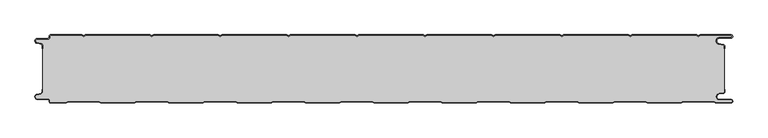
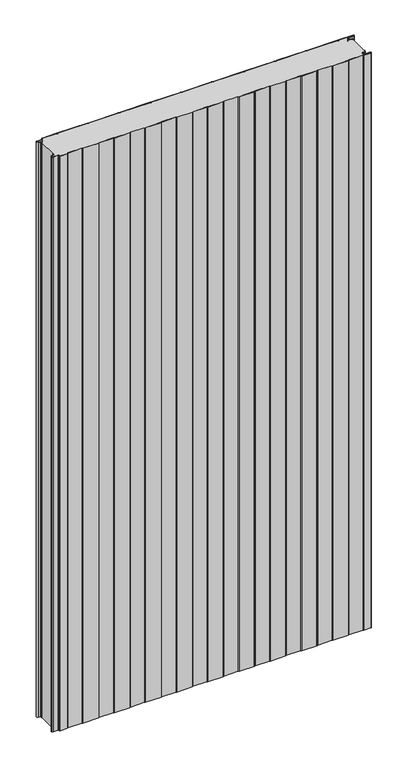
"""IFC4 building model written with IfcOpenShell, lengths in millimetres: plate geometry, PMH_Curtain-PaneL-Standard : ACH_PMH_Stone-wool-Panel_100M."""

from ifc_helpers import new_model, si_unit, point, frame_2d, origin, origin_with_axes, place, context, project, spatial, polyline, circle_curve, trimmed, segment, composite_curve, outline, extrude, source, transform, mapped, element, save


def plate_b975286f(model_context):
    return source(origin(), model_context, "Body", "SweptSolid", [
        extrude(outline(composite_curve([segment(trimmed(circle_curve(frame_2d((-502.0, -15.878557)), 2.0), [point((-500.0, -15.878557))], [point((-501.5500978, -13.9298169))], True, "CARTESIAN"), True, "CONTINUOUS"), segment(polyline([(-501.5500978, -13.9298169), (-507.7098239, -12.507732)]), True, "CONTINUOUS"), segment(trimmed(circle_curve(frame_2d((-506.9, -9.0)), 3.6), [point((-507.7098239, -12.507732))], [point((-506.9, -5.4))], False, "CARTESIAN"), True, "CONTINUOUS"), segment(polyline([(-506.9, -5.4), (-491.4, -5.4)]), True, "CONTINUOUS"), segment(trimmed(circle_curve(frame_2d((-491.4, -3.4)), 2.0), [point((-491.4, -5.4))], [point((-489.4, -3.4))], True, "CARTESIAN"), True, "CONTINUOUS"), segment(polyline([(-489.4, -3.4), (-489.4, -2.0)]), True, "CONTINUOUS"), segment(trimmed(circle_curve(frame_2d((-487.4, -2.0)), 2.0), [point((-489.4, -2.0))], [point((-487.4, 0.0))], False, "CARTESIAN"), True, "CONTINUOUS"), segment(polyline([(-487.4, 0.0), (-442.0999995, 0.0), (-439.4, -1.5588455), (-436.7000005, 0.0), (-342.0999995, 0.0), (-339.4, -1.5588455), (-336.7000005, 0.0), (-242.0999995, 0.0), (-239.4, -1.5588455), (-236.7000005, 0.0), (-142.0999995, 0.0), (-139.4, -1.5588455), (-136.7000005, 0.0), (-42.0999995, 0.0), (-39.4, -1.5588455), (-36.7000005, 0.0), (57.9000005, 0.0), (60.6, -1.5588455), (63.2999995, 0.0), (157.9000005, 0.0), (160.6, -1.5588455), (163.2999995, 0.0), (257.9000005, 0.0), (260.6, -1.5588455), (263.2999995, 0.0), (357.9000005, 0.0), (360.6, -1.5588455), (363.2999995, 0.0), (457.9000005, 0.0), (460.6, -1.5588455), (463.2999995, 0.0), (508.1, 0.0)]), True, "CONTINUOUS"), segment(trimmed(circle_curve(frame_2d((508.1, -2.5)), 2.5), [point((508.1, 0.0))], [point((508.1, -5.0))], False, "CARTESIAN"), True, "CONTINUOUS"), segment(polyline([(508.1, -5.0), (491.1, -5.0)]), True, "CONTINUOUS"), segment(trimmed(circle_curve(frame_2d((491.1, -9.0)), 4.0), [point((491.1, -5.0))], [point((490.405407, -12.939231))], True, "CARTESIAN"), True, "CONTINUOUS"), segment(polyline([(490.405407, -12.939231), (496.8514855, -14.0758491)]), True, "CONTINUOUS"), segment(trimmed(circle_curve(frame_2d((496.4, -16.6363492)), 2.6), [point((496.8514855, -14.0758491))], [point((499.0, -16.6363492))], False, "CARTESIAN"), True, "CONTINUOUS"), segment(polyline([(499.0, -16.6363492), (499.0, -20.0), (498.2, -20.0), (498.2, -16.6363492)]), True, "CONTINUOUS"), segment(trimmed(circle_curve(frame_2d((496.4, -16.6363492)), 1.8), [point((498.2, -16.6363492))], [point((496.7125669, -14.8636953))], True, "CARTESIAN"), True, "CONTINUOUS"), segment(polyline([(496.7125669, -14.8636953), (490.2664884, -13.7270772)]), True, "CONTINUOUS"), segment(trimmed(circle_curve(frame_2d((491.1, -9.0)), 4.8), [point((490.2664884, -13.7270772))], [point((491.1, -4.2))], False, "CARTESIAN"), True, "CONTINUOUS"), segment(polyline([(491.1, -4.2), (508.1, -4.2)]), True, "CONTINUOUS"), segment(trimmed(circle_curve(frame_2d((508.1, -2.5)), 1.7), [point((508.1, -4.2))], [point((508.1, -0.8))], True, "CARTESIAN"), True, "CONTINUOUS"), segment(polyline([(508.1, -0.8), (463.5143588, -0.8), (460.6, -2.482606), (457.6856412, -0.8), (363.5143588, -0.8), (360.6, -2.482606), (357.6856412, -0.8), (263.5143588, -0.8), (260.6, -2.482606), (257.6856412, -0.8), (163.5143588, -0.8), (160.6, -2.482606), (157.6856412, -0.8), (63.5143588, -0.8), (60.6, -2.482606), (57.6856412, -0.8), (-36.4856412, -0.8), (-39.4, -2.482606), (-42.3143588, -0.8), (-136.4856412, -0.8), (-139.4, -2.482606), (-142.3143588, -0.8), (-236.4856412, -0.8), (-239.4, -2.482606), (-242.3143588, -0.8), (-336.4856412, -0.8), (-339.4, -2.482606), (-342.3143588, -0.8), (-436.4856412, -0.8), (-439.4, -2.482606), (-442.3143588, -0.8), (-487.4, -0.8)]), True, "CONTINUOUS"), segment(trimmed(circle_curve(frame_2d((-487.4, -2.0)), 1.2), [point((-487.4, -0.8))], [point((-488.6, -2.0))], True, "CARTESIAN"), True, "CONTINUOUS"), segment(polyline([(-488.6, -2.0), (-488.6, -3.4)]), True, "CONTINUOUS"), segment(trimmed(circle_curve(frame_2d((-491.4, -3.4)), 2.8), [point((-488.6, -3.4))], [point((-491.4, -6.2))], False, "CARTESIAN"), True, "CONTINUOUS"), segment(polyline([(-491.4, -6.2), (-506.9, -6.2)]), True, "CONTINUOUS"), segment(trimmed(circle_curve(frame_2d((-506.9, -9.0)), 2.8), [point((-506.9, -6.2))], [point((-507.529863, -11.7282362))], True, "CARTESIAN"), True, "CONTINUOUS"), segment(polyline([(-507.529863, -11.7282362), (-501.370137, -13.150321)]), True, "CONTINUOUS"), segment(trimmed(circle_curve(frame_2d((-502.0, -15.878557)), 2.8), [point((-501.370137, -13.150321))], [point((-499.2, -15.878557))], False, "CARTESIAN"), True, "CONTINUOUS"), segment(polyline([(-499.2, -15.878557), (-499.2, -20.0), (-500.0, -20.0), (-500.0, -15.878557)]), True, "CONTINUOUS")], self_intersect=False)), origin_with_axes(), (0.0, 0.0, 1.0), 1945.7507136),
        extrude(outline(composite_curve([segment(polyline([(-499.2, -84.121443), (-499.2, -15.8785573)]), True, "CONTINUOUS"), segment(trimmed(circle_curve(frame_2d((-502.0, -15.8785573)), 2.8), [point((-499.2, -15.8785573))], [point((-501.370137, -13.1503212))], True, "CARTESIAN"), True, "CONTINUOUS"), segment(polyline([(-501.370137, -13.1503212), (-507.5298631, -11.7282362)]), True, "CONTINUOUS"), segment(trimmed(circle_curve(frame_2d((-506.9, -9.0)), 2.8), [point((-507.5298631, -11.7282362))], [point((-506.9, -6.2))], False, "CARTESIAN"), True, "CONTINUOUS"), segment(polyline([(-506.9, -6.2), (-491.4000001, -6.2)]), True, "CONTINUOUS"), segment(trimmed(circle_curve(frame_2d((-491.4000001, -3.4)), 2.8), [point((-491.4000001, -6.2))], [point((-488.6000001, -3.4))], True, "CARTESIAN"), True, "CONTINUOUS"), segment(polyline([(-488.6000001, -3.4), (-488.6000001, -2.0)]), True, "CONTINUOUS"), segment(trimmed(circle_curve(frame_2d((-487.4000001, -2.0)), 1.2), [point((-488.6000001, -2.0))], [point((-487.4000001, -0.8))], False, "CARTESIAN"), True, "CONTINUOUS"), segment(polyline([(-487.4000001, -0.8), (-442.3143589, -0.8), (-439.4000001, -2.482606), (-436.4856412, -0.8), (-342.3143589, -0.8), (-339.4000001, -2.482606), (-336.4856412, -0.8), (-242.3143589, -0.8), (-239.4000001, -2.482606), (-236.4856412, -0.8), (-142.3143589, -0.8), (-139.4000001, -2.482606), (-136.4856412, -0.8), (-42.3143589, -0.8), (-39.4000001, -2.482606), (-36.4856412, -0.8), (57.6856411, -0.8), (60.5999999, -2.482606), (63.5143588, -0.8), (157.6856411, -0.8), (160.5999999, -2.482606), (163.5143588, -0.8), (257.6856411, -0.8), (260.5999999, -2.482606), (263.5143588, -0.8), (357.6856411, -0.8), (360.5999999, -2.482606), (363.5143588, -0.8), (457.6856411, -0.8), (460.5999999, -2.482606), (463.5143587, -0.8), (508.1, -0.8)]), True, "CONTINUOUS"), segment(trimmed(circle_curve(frame_2d((508.1, -2.5)), 1.7), [point((508.1, -0.8))], [point((508.1, -4.2))], False, "CARTESIAN"), True, "CONTINUOUS"), segment(polyline([(508.1, -4.2), (491.1, -4.2)]), True, "CONTINUOUS"), segment(trimmed(circle_curve(frame_2d((491.1, -9.0)), 4.8), [point((491.1, -4.2))], [point((490.2664883, -13.7270771))], True, "CARTESIAN"), True, "CONTINUOUS"), segment(polyline([(490.2664883, -13.7270771), (496.7125668, -14.8636953)]), True, "CONTINUOUS"), segment(trimmed(circle_curve(frame_2d((496.4, -16.6363492)), 1.8), [point((496.7125668, -14.8636953))], [point((498.2, -16.6363492))], False, "CARTESIAN"), True, "CONTINUOUS"), segment(polyline([(498.2, -16.6363492), (498.2, -83.363652)]), True, "CONTINUOUS"), segment(trimmed(circle_curve(frame_2d((496.4, -83.363652)), 1.8), [point((498.2, -83.363652))], [point((496.7125666, -85.1363059))], False, "CARTESIAN"), True, "CONTINUOUS"), segment(polyline([(496.7125666, -85.1363059), (490.266489, -86.272923)]), True, "CONTINUOUS"), segment(trimmed(circle_curve(frame_2d((491.1, -91.0000002)), 4.7999999), [point((490.266489, -86.272923))], [point((491.1, -95.8000001))], True, "CARTESIAN"), True, "CONTINUOUS"), segment(polyline([(491.1, -95.8000001), (508.1, -95.8000001)]), True, "CONTINUOUS"), segment(trimmed(circle_curve(frame_2d((508.1, -97.5)), 1.7), [point((508.1, -95.8000001))], [point((508.1, -99.2))], False, "CARTESIAN"), True, "CONTINUOUS"), segment(polyline([(508.1, -99.2), (485.8105122, -99.2), (483.2124346, -97.7), (437.9837184, -97.7), (435.3856408, -99.2), (385.8105122, -99.2), (383.2124346, -97.7), (337.9837184, -97.7), (335.3856408, -99.2), (285.8105122, -99.2), (283.2124346, -97.7), (237.9837184, -97.7), (235.3856408, -99.2), (185.8105122, -99.2), (183.2124346, -97.7), (137.9837184, -97.7), (135.3856408, -99.2), (85.8105122, -99.2), (83.2124346, -97.7), (37.9837184, -97.7), (35.3856408, -99.2), (-14.1894878, -99.2), (-16.7875654, -97.7), (-62.0162816, -97.7), (-64.6143592, -99.2), (-114.1894878, -99.2), (-116.7875654, -97.7), (-162.0162816, -97.7), (-164.6143592, -99.2), (-214.1894878, -99.2), (-216.7875654, -97.7), (-262.0162816, -97.7), (-264.6143592, -99.2), (-314.1894878, -99.2), (-316.7875654, -97.7), (-362.0162816, -97.7), (-364.6143592, -99.2), (-414.1894878, -99.2), (-416.7875654, -97.7), (-462.0162816, -97.7), (-464.6143592, -99.2), (-487.4, -99.2)]), True, "CONTINUOUS"), segment(trimmed(circle_curve(frame_2d((-487.4, -98.0)), 1.2), [point((-487.4, -99.2))], [point((-488.6, -98.0))], False, "CARTESIAN"), True, "CONTINUOUS"), segment(polyline([(-488.6, -98.0), (-488.6, -96.5999998)]), True, "CONTINUOUS"), segment(trimmed(circle_curve(frame_2d((-491.4, -96.5999998)), 2.8), [point((-488.6, -96.5999998))], [point((-491.4, -93.7999998))], True, "CARTESIAN"), True, "CONTINUOUS"), segment(polyline([(-491.4, -93.7999998), (-506.9, -93.7999998)]), True, "CONTINUOUS"), segment(trimmed(circle_curve(frame_2d((-506.9, -91.0)), 2.7999998), [point((-506.9, -93.7999998))], [point((-507.529863, -88.271764))], False, "CARTESIAN"), True, "CONTINUOUS"), segment(polyline([(-507.529863, -88.271764), (-501.370137, -86.8496792)]), True, "CONTINUOUS"), segment(trimmed(circle_curve(frame_2d((-502.0, -84.121443)), 2.8), [point((-501.370137, -86.8496792))], [point((-499.2, -84.121443))], True, "CARTESIAN"), True, "CONTINUOUS")], self_intersect=False)), origin_with_axes(), (0.0, 0.0, 1.0), 1945.7507136),
        extrude(outline(composite_curve([segment(trimmed(circle_curve(frame_2d((-487.4, -98.0)), 2.0), [point((-487.4, -100.0))], [point((-489.4, -98.0))], False, "CARTESIAN"), True, "CONTINUOUS"), segment(polyline([(-489.4, -98.0), (-489.4, -96.6)]), True, "CONTINUOUS"), segment(trimmed(circle_curve(frame_2d((-491.4, -96.6)), 2.0), [point((-489.4, -96.6))], [point((-491.4, -94.6))], True, "CARTESIAN"), True, "CONTINUOUS"), segment(polyline([(-491.4, -94.6), (-506.9, -94.6)]), True, "CONTINUOUS"), segment(trimmed(circle_curve(frame_2d((-506.9, -91.0)), 3.6), [point((-506.9, -94.6))], [point((-507.7098239, -87.4922678))], False, "CARTESIAN"), True, "CONTINUOUS"), segment(polyline([(-507.7098239, -87.4922678), (-501.5500979, -86.070183)]), True, "CONTINUOUS"), segment(trimmed(circle_curve(frame_2d((-502.0, -84.121443)), 2.0), [point((-501.5500979, -86.070183))], [point((-500.0, -84.121443))], True, "CARTESIAN"), True, "CONTINUOUS"), segment(polyline([(-500.0, -84.121443), (-500.0, -80.0), (-499.2, -80.0), (-499.2, -84.121443)]), True, "CONTINUOUS"), segment(trimmed(circle_curve(frame_2d((-502.0, -84.121443)), 2.8), [point((-499.2, -84.121443))], [point((-501.370137, -86.8496792))], False, "CARTESIAN"), True, "CONTINUOUS"), segment(polyline([(-501.370137, -86.8496792), (-507.529863, -88.271764)]), True, "CONTINUOUS"), segment(trimmed(circle_curve(frame_2d((-506.9, -91.0)), 2.8), [point((-507.529863, -88.271764))], [point((-506.9, -93.8))], True, "CARTESIAN"), True, "CONTINUOUS"), segment(polyline([(-506.9, -93.8), (-491.4, -93.8)]), True, "CONTINUOUS"), segment(trimmed(circle_curve(frame_2d((-491.4, -96.6)), 2.8), [point((-491.4, -93.8))], [point((-488.6, -96.6))], False, "CARTESIAN"), True, "CONTINUOUS"), segment(polyline([(-488.6, -96.6), (-488.6, -98.0)]), True, "CONTINUOUS"), segment(trimmed(circle_curve(frame_2d((-487.4, -98.0)), 1.2), [point((-488.6, -98.0))], [point((-487.4, -99.2))], True, "CARTESIAN"), True, "CONTINUOUS"), segment(polyline([(-487.4, -99.2), (-464.6143592, -99.2), (-462.0162816, -97.7), (-416.7875654, -97.7), (-414.1894878, -99.2), (-364.6143592, -99.2), (-362.0162816, -97.7), (-316.7875654, -97.7), (-314.1894878, -99.2), (-264.6143592, -99.2), (-262.0162816, -97.7), (-216.7875654, -97.7), (-214.1894878, -99.2), (-164.6143592, -99.2), (-162.0162816, -97.7), (-116.7875654, -97.7), (-114.1894878, -99.2), (-64.6143592, -99.2), (-62.0162816, -97.7), (-16.7875654, -97.7), (-14.1894878, -99.2), (35.3856408, -99.2), (37.9837184, -97.7), (83.2124346, -97.7), (85.8105122, -99.2), (135.3856408, -99.2), (137.9837184, -97.7), (183.2124346, -97.7), (185.8105122, -99.2), (235.3856408, -99.2), (237.9837184, -97.7), (283.2124346, -97.7), (285.8105122, -99.2), (335.3856408, -99.2), (337.9837184, -97.7), (383.2124346, -97.7), (385.8105122, -99.2), (435.3856408, -99.2), (437.9837184, -97.7), (483.2124346, -97.7), (485.8105122, -99.2), (508.1, -99.2)]), True, "CONTINUOUS"), segment(trimmed(circle_curve(frame_2d((508.1, -97.5)), 1.7), [point((508.1, -99.2))], [point((508.1, -95.8))], True, "CARTESIAN"), True, "CONTINUOUS"), segment(polyline([(508.1, -95.8), (491.1, -95.8)]), True, "CONTINUOUS"), segment(trimmed(circle_curve(frame_2d((491.1, -91.0)), 4.8), [point((491.1, -95.8))], [point((490.266489, -86.2729227))], False, "CARTESIAN"), True, "CONTINUOUS"), segment(polyline([(490.266489, -86.2729227), (496.7125666, -85.1363058)]), True, "CONTINUOUS"), segment(trimmed(circle_curve(frame_2d((496.4, -83.363652)), 1.8), [point((496.7125666, -85.1363058))], [point((498.2, -83.363652))], True, "CARTESIAN"), True, "CONTINUOUS"), segment(polyline([(498.2, -83.363652), (498.2, -80.0), (499.0, -80.0), (499.0, -83.363652)]), True, "CONTINUOUS"), segment(trimmed(circle_curve(frame_2d((496.4, -83.363652)), 2.6), [point((499.0, -83.363652))], [point((496.8514851, -85.9241522))], False, "CARTESIAN"), True, "CONTINUOUS"), segment(polyline([(496.8514851, -85.9241522), (490.4054075, -87.0607691)]), True, "CONTINUOUS"), segment(trimmed(circle_curve(frame_2d((491.1, -91.0)), 4.0), [point((490.4054075, -87.0607691))], [point((491.1, -95.0))], True, "CARTESIAN"), True, "CONTINUOUS"), segment(polyline([(491.1, -95.0), (508.1, -95.0)]), True, "CONTINUOUS"), segment(trimmed(circle_curve(frame_2d((508.1, -97.5)), 2.5), [point((508.1, -95.0))], [point((508.1, -100.0))], False, "CARTESIAN"), True, "CONTINUOUS"), segment(polyline([(508.1, -100.0), (485.5961529, -100.0), (482.9980753, -98.5), (438.1980777, -98.5), (435.6000001, -100.0), (385.5961529, -100.0), (382.9980753, -98.5), (338.1980777, -98.5), (335.6000001, -100.0), (285.5961529, -100.0), (282.9980753, -98.5), (238.1980777, -98.5), (235.6000001, -100.0), (185.5961529, -100.0), (182.9980753, -98.5), (138.1980777, -98.5), (135.6000001, -100.0), (85.5961529, -100.0), (82.9980753, -98.5), (38.1980777, -98.5), (35.6000001, -100.0), (-14.4038471, -100.0), (-17.0019247, -98.5), (-61.8019223, -98.5), (-64.3999999, -100.0), (-114.4038471, -100.0), (-117.0019247, -98.5), (-161.8019223, -98.5), (-164.3999999, -100.0), (-214.4038471, -100.0), (-217.0019247, -98.5), (-261.8019223, -98.5), (-264.3999999, -100.0), (-314.4038471, -100.0), (-317.0019247, -98.5), (-361.8019223, -98.5), (-364.3999999, -100.0), (-414.4038471, -100.0), (-417.0019247, -98.5), (-461.8019223, -98.5), (-464.3999999, -100.0), (-487.4, -100.0)]), True, "CONTINUOUS")], self_intersect=False)), origin_with_axes(), (0.0, 0.0, 1.0), 1945.7507136),
    ])


if __name__ == "__main__":
    model = new_model("IFC4")
    model_context = context("Model", 3, world=origin())
    ifc_project = project(units=[si_unit("LENGTHUNIT", "METRE", prefix="MILLI")], contexts=[model_context])
    site = spatial("IfcSite", under=ifc_project)
    building = spatial("IfcBuilding", under=site)
    placement = place(None, origin())
    plate_shape = plate_b975286f(model_context)
    element("IfcPlate", 1, ObjectType="PMH_Curtain-PaneL-Standard : ACH_PMH_Stone-wool-Panel_100M", at=placement, inside=building, context=model_context, shape_type="MappedRepresentation", body=[
        mapped(plate_shape, transform((0.0, 0.0, 0.0), x_axis=(1.0, 0.0, 0.0), y_axis=(0.0, 1.0, 0.0), z_axis=(0.0, 0.0, 1.0))),
    ])
    save(model, "model.ifc")
